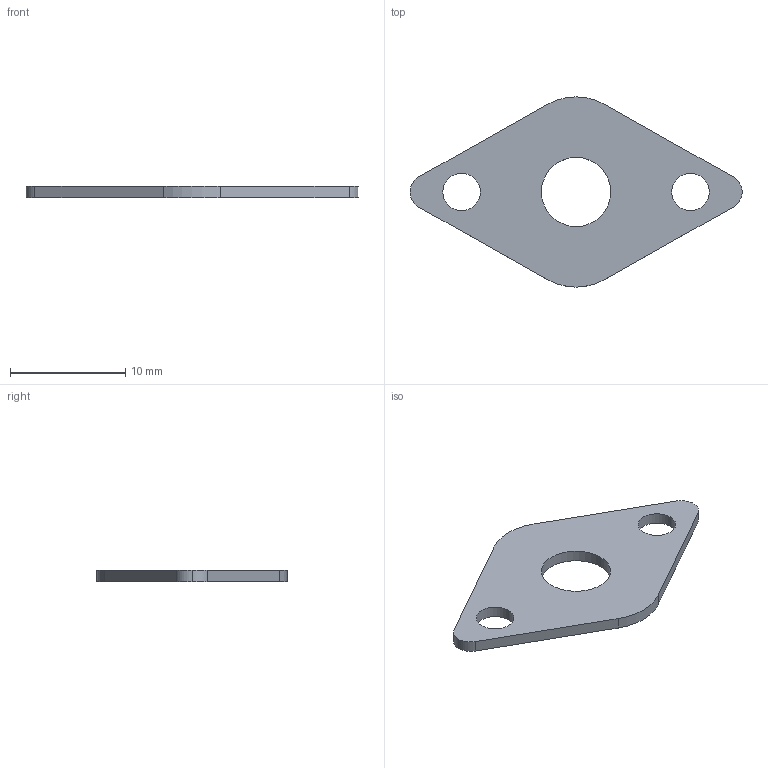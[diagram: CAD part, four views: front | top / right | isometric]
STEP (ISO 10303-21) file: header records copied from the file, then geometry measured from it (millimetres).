
FILE_DESCRIPTION (( 'STEP AP214' ), '1' );
FILE_NAME ('A100 Íàáîð êðåïëåíèé äëÿ äåëüòà êîðïóñà, ïëàñòèíà.STEP', '2019-04-26T10:00:36', ( 'Ïîëüçîâàòåëü Windows' ), ( '' ), 'SwSTEP 2.0', 'SolidWorks 2018', '' );
FILE_SCHEMA (( 'AUTOMOTIVE_DESIGN' ));
Length unit declared in the file: millimetre
Products named in the file (1): A100 Íàáîð êðåïëåíèé äëÿ äåëüòà êîðïóñà, ïëàñòèíà
Bounding box: 28.8 x 16.5 x 1 mm (x, y, z)
Volume: 236.2 mm3; surface area: 579.7 mm2
Topology: 1 solids, 1 shells, 17 faces, 45 edges, 30 vertices
Faces by surface type: cylinder 11, plane 6
Entity records: 587 total; most frequent: DIRECTION 103, CARTESIAN_POINT 93, ORIENTED_EDGE 90, EDGE_CURVE 45, AXIS2_PLACEMENT_3D 40, VERTEX_POINT 30, VECTOR 23, EDGE_LOOP 23
